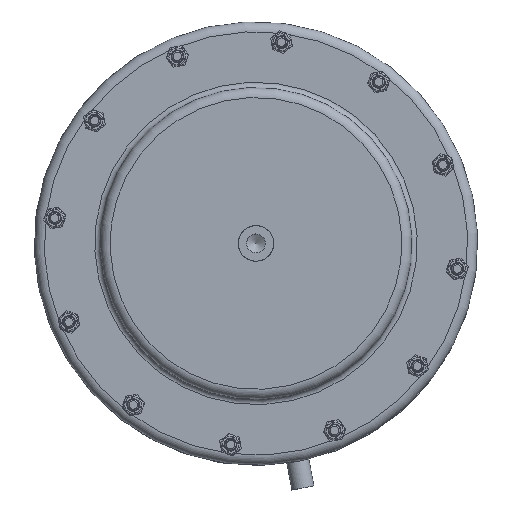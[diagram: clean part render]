
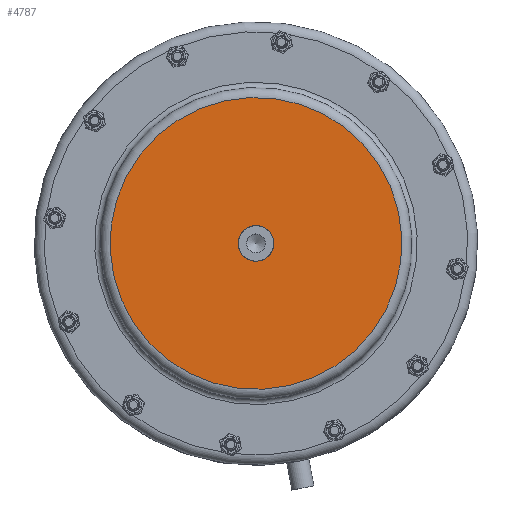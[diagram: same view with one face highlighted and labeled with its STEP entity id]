
A CAD part, top view. The second image highlights one B-rep face of the part: STEP entity #4787.
In plain terms, the highlighted planar face has unit normal (0, 0, 1).
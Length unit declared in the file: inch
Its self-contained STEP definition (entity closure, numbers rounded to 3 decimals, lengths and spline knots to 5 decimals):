
#4580=CARTESIAN_POINT('',(0.3937,0.0,1.16535));
#4581=VERTEX_POINT('',#4580);
#4582=CARTESIAN_POINT('',(0.0,0.0,1.16535));
#4583=DIRECTION('',(0.0,0.0,-1.0));
#4584=DIRECTION('',(1.0,0.0,0.0));
#4585=AXIS2_PLACEMENT_3D('',#4582,#4583,#4584);
#4586=CIRCLE('',#4585,0.3937);
#4587=EDGE_CURVE('',#4581,#4581,#4586,.T.);
#4761=CARTESIAN_POINT('',(0.0,-3.22835,1.16535));
#4762=VERTEX_POINT('',#4761);
#4763=CARTESIAN_POINT('',(0.0,0.0,1.16535));
#4764=DIRECTION('',(0.0,0.0,1.0));
#4765=DIRECTION('',(0.0,-1.0,0.0));
#4766=AXIS2_PLACEMENT_3D('',#4763,#4764,#4765);
#4767=CIRCLE('',#4766,3.22835);
#4768=EDGE_CURVE('',#4762,#4762,#4767,.T.);
#4776=CARTESIAN_POINT('',(0.0,-1.61417,1.16535));
#4777=DIRECTION('',(0.0,0.0,1.0));
#4778=DIRECTION('',(1.0,0.0,0.0));
#4779=AXIS2_PLACEMENT_3D('',#4776,#4777,#4778);
#4780=PLANE('',#4779);
#4781=ORIENTED_EDGE('',*,*,#4768,.T.);
#4782=EDGE_LOOP('',(#4781));
#4783=FACE_OUTER_BOUND('',#4782,.T.);
#4784=ORIENTED_EDGE('',*,*,#4587,.T.);
#4785=EDGE_LOOP('',(#4784));
#4786=FACE_BOUND('',#4785,.T.);
#4787=ADVANCED_FACE('',(#4783,#4786),#4780,.T.);
